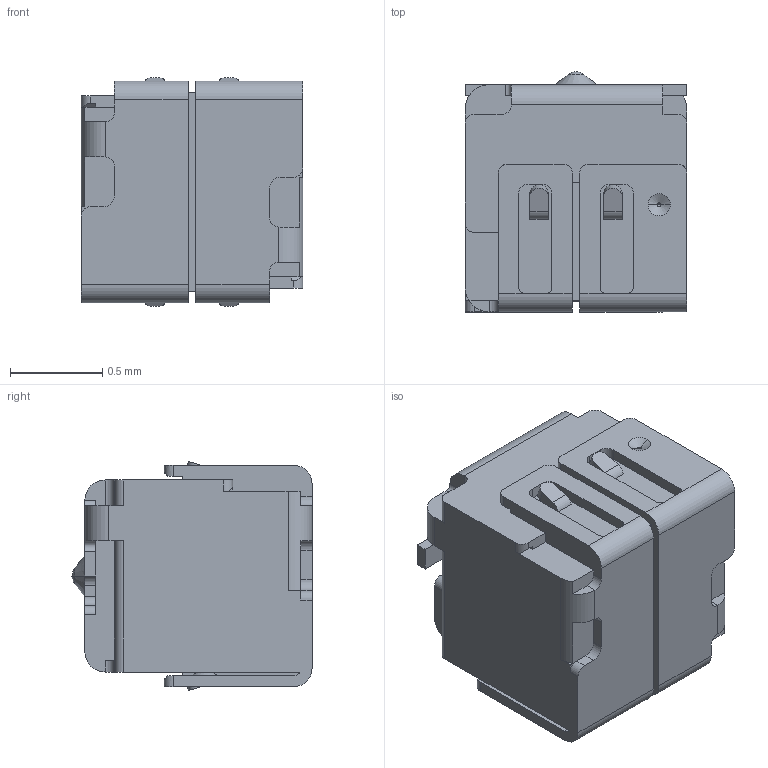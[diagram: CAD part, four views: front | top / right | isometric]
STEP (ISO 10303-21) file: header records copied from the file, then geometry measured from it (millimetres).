
FILE_DESCRIPTION((''),'2;1');
FILE_NAME('3D-2014018-0A-00','2022-04-25T',('TPS'),(''),'CREO PARAMETRIC BY PTC INC, 2015290','CREO PARAMETRIC BY PTC INC, 2015290','');
FILE_SCHEMA(('CONFIG_CONTROL_DESIGN'));
Length unit declared in the file: millimetre
Products named in the file (1): 3D-2014018-0A-00
Bounding box: 1.2 x 1.3 x 1.24 mm (x, y, z)
Volume: 1.6 mm3; surface area: 10.1 mm2
Topology: 1 solids, 3 shells, 230 faces, 639 edges, 410 vertices
Faces by surface type: plane 138, cylinder 72, cone 10, sphere 10
Entity records: 7346 total; most frequent: CARTESIAN_POINT 1339, ORIENTED_EDGE 1258, DIRECTION 1256, EDGE_CURVE 629, VECTOR 426, LINE 426, AXIS2_PLACEMENT_3D 415, VERTEX_POINT 410
